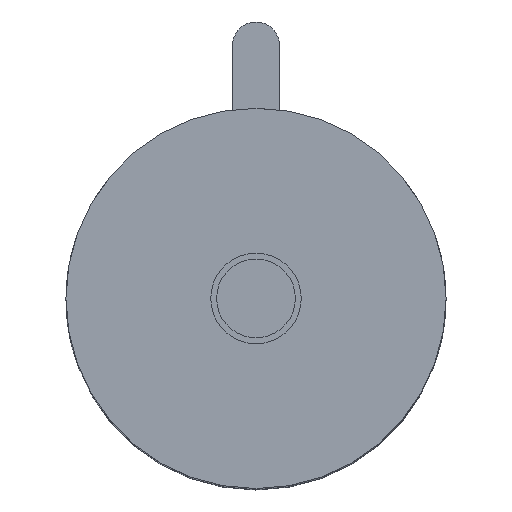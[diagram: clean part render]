
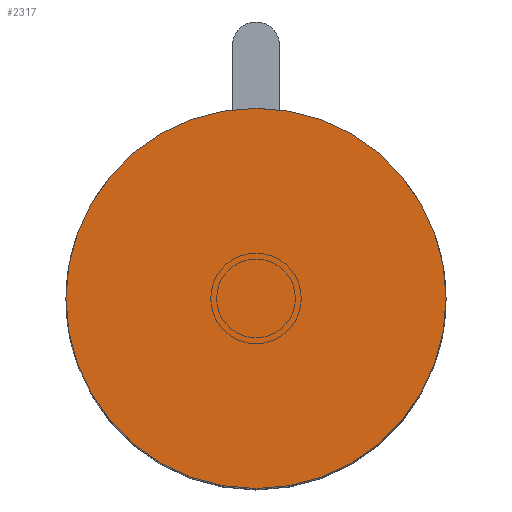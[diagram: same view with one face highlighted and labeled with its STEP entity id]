
A CAD part, top view. The second image highlights one B-rep face of the part: STEP entity #2317.
In plain terms, the highlighted planar face has unit normal (0, 0, 1).
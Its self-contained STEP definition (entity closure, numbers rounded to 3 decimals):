
#91 = AXIS2_PLACEMENT_3D ( 'NONE', #1267, #1258, #1190 ) ;
#325 = ORIENTED_EDGE ( 'NONE', *, *, #2855, .F. ) ;
#556 = EDGE_LOOP ( 'NONE', ( #325, #2982 ) ) ;
#609 = VERTEX_POINT ( 'NONE', #1706 ) ;
#800 = DIRECTION ( 'NONE',  ( 1., 0., 0. ) ) ;
#808 = DIRECTION ( 'NONE',  ( 0., 0., -1. ) ) ;
#862 = FACE_OUTER_BOUND ( 'NONE', #556, .T. ) ;
#1091 = DIRECTION ( 'NONE',  ( 1., 0., 0. ) ) ;
#1097 = DIRECTION ( 'NONE',  ( 0., 0., -1. ) ) ;
#1103 = CARTESIAN_POINT ( 'NONE',  ( 0., 0., 46. ) ) ;
#1190 = DIRECTION ( 'NONE',  ( 1., 0., 0. ) ) ;
#1258 = DIRECTION ( 'NONE',  ( 0., 0., 1. ) ) ;
#1267 = CARTESIAN_POINT ( 'NONE',  ( 0., 0., 46. ) ) ;
#1304 = CIRCLE ( 'NONE', #2076, 21. ) ;
#1411 = CARTESIAN_POINT ( 'NONE',  ( 0., 0., 46. ) ) ;
#1705 = VERTEX_POINT ( 'NONE', #2868 ) ;
#1706 = CARTESIAN_POINT ( 'NONE',  ( -21., 0., 46. ) ) ;
#1830 = PLANE ( 'NONE',  #91 ) ;
#2076 = AXIS2_PLACEMENT_3D ( 'NONE', #1411, #808, #800 ) ;
#2317 = ADVANCED_FACE ( 'NONE', ( #862 ), #1830, .T. ) ;
#2826 = EDGE_CURVE ( 'NONE', #609, #1705, #2842, .T. ) ;
#2842 = CIRCLE ( 'NONE', #3255, 21. ) ;
#2855 = EDGE_CURVE ( 'NONE', #1705, #609, #1304, .T. ) ;
#2868 = CARTESIAN_POINT ( 'NONE',  ( 21., 0., 46. ) ) ;
#2982 = ORIENTED_EDGE ( 'NONE', *, *, #2826, .F. ) ;
#3255 = AXIS2_PLACEMENT_3D ( 'NONE', #1103, #1097, #1091 ) ;
